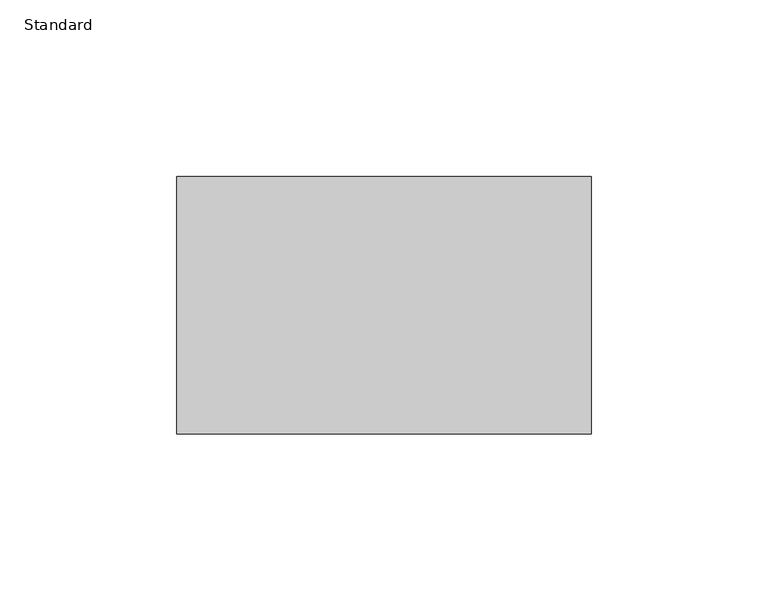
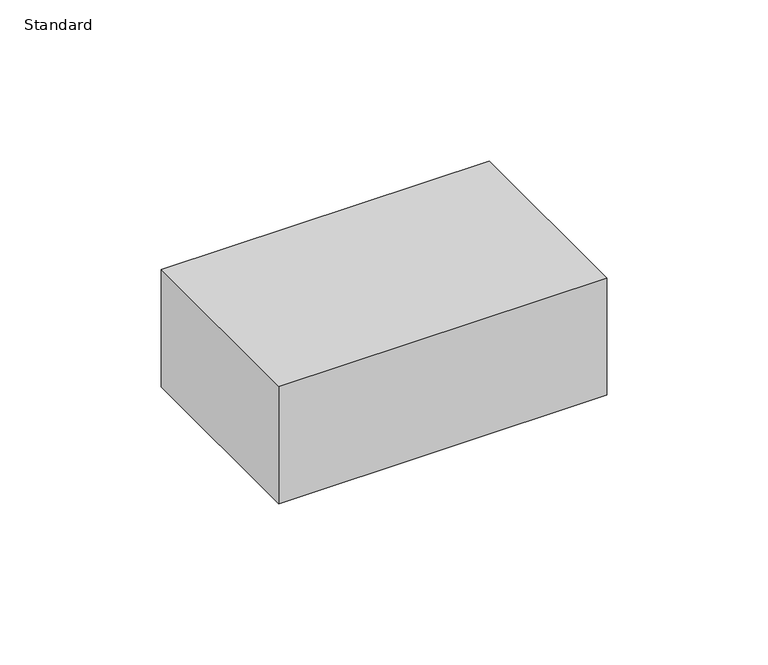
"""IFC4 building model written with IfcOpenShell, lengths in millimetres: proxy geometry, Transition_Box-2400_Series-Wiremold : Standard."""

import ifcopenshell
import ifcopenshell.guid

model = None  # the IFC model being written
_history = None  # IfcOwnerHistory: only IFC2X3 demands one
_inside = {}  # id of a spatial element -> (the spatial element, [elements in it])
_under = {}  # id of a project, library or spatial element -> (it, [spatial elements below it])
_declared = {}  # id of a project -> (the project, [libraries it declares])
_typed = {}  # id of a type object -> (the type object, [elements of that type])
_made_of = {}  # id of a material, layer set ... -> (it, [elements and type objects made of it])


def new_model(schema):
    """Start an empty IFC model of exactly this schema.

    Asked for "IFC4X3", IfcOpenShell would pick the latest addendum, in which some entities
    have other attributes; the version numbers below select the first issue.
    IFC2X3 requires an IfcOwnerHistory on every rooted entity: one is made here for all.
    """
    global model, _history
    if schema == "IFC4X3":
        model = ifcopenshell.file(schema_version=(4, 3, 0, 0))
    else:
        model = ifcopenshell.file(schema=schema)
    _inside.clear()
    _under.clear()
    _declared.clear()
    _typed.clear()
    _made_of.clear()
    _history = None
    if model.schema == "IFC2X3":
        org = make("IfcOrganization", Name="unknown")
        user = make(
            "IfcPersonAndOrganization",
            ThePerson=make("IfcPerson", FamilyName="unknown"),
            TheOrganization=org,
        )
        app = make(
            "IfcApplication",
            ApplicationDeveloper=org,
            Version="unknown",
            ApplicationFullName="unknown",
            ApplicationIdentifier="unknown",
        )
        _history = make(
            "IfcOwnerHistory",
            OwningUser=user,
            OwningApplication=app,
            ChangeAction="ADDED",
            CreationDate=0,
        )
    return model


def make(cls, **values):
    """One entity of the class cls with the attributes given. An attribute that is None is left unset."""
    return model.create_entity(
        cls, **{name: value for name, value in values.items() if value is not None}
    )


def rooted(cls, **values):
    """An entity with a GlobalId (a new one), such as an element, a storey or a relation."""
    return make(cls, GlobalId=ifcopenshell.guid.new(), OwnerHistory=_history, **values)


def si_unit(unit_type, name, prefix=None):
    """IfcSIUnit, for example si_unit("LENGTHUNIT", "METRE", prefix="MILLI")."""
    return make("IfcSIUnit", UnitType=unit_type, Prefix=prefix, Name=name)


def assignment(units):
    """IfcUnitAssignment: the units of a project."""
    return None if units is None else make("IfcUnitAssignment", Units=units)


def point(xyz):
    """IfcCartesianPoint."""
    return None if xyz is None else make("IfcCartesianPoint", Coordinates=xyz)


def direction(xyz):
    """IfcDirection."""
    return None if xyz is None else make("IfcDirection", DirectionRatios=xyz)


def frame(location, z_axis=None, x_axis=None):
    """IfcAxis2Placement3D, a coordinate frame: its origin and axes. An axis left out is left unset."""
    return make(
        "IfcAxis2Placement3D",
        Location=point(location),
        Axis=direction(z_axis),
        RefDirection=direction(x_axis),
    )


def origin():
    """The frame at (0, 0, 0) with its axes left unset."""
    return frame((0.0, 0.0, 0.0))


def origin_with_axes():
    """The frame at (0, 0, 0) with the z axis (0, 0, 1) and the x axis (1, 0, 0) written out."""
    return frame((0.0, 0.0, 0.0), z_axis=(0.0, 0.0, 1.0), x_axis=(1.0, 0.0, 0.0))


def place(relative_to, where):
    """IfcLocalPlacement: puts the frame where relative to a parent placement (None: the world)."""
    return make(
        "IfcLocalPlacement", PlacementRelTo=relative_to, RelativePlacement=where
    )


def context(
    kind, dimensions, precision=None, world=None, true_north=None, identifier=None
):
    """IfcGeometricRepresentationContext, for example the 3D "Model" context."""
    return make(
        "IfcGeometricRepresentationContext",
        ContextIdentifier=identifier,
        ContextType=kind,
        CoordinateSpaceDimension=dimensions,
        Precision=precision,
        WorldCoordinateSystem=world,
        TrueNorth=true_north,
    )


def project(units=None, contexts=None):
    """IfcProject with its units and contexts."""
    return rooted(
        "IfcProject",
        Name="project",
        RepresentationContexts=contexts,
        UnitsInContext=assignment(units),
    )


def spatial(cls, under=None, at=None, **own):
    """A site, building, storey or space (cls), placed at a placement, below another one or the project."""
    s = rooted(cls, ObjectPlacement=at, **own)
    if under is not None:
        _under.setdefault(under.id(), (under, []))[1].append(s)
    return s


def polyline(points):
    """IfcPolyline through the points."""
    return make("IfcPolyline", Points=[point(p) for p in points])


def outline(outer, holes=None, kind="AREA"):
    """IfcArbitraryClosedProfileDef: a profile drawn as a closed curve; with holes, ...WithVoids."""
    if holes is None:
        return make("IfcArbitraryClosedProfileDef", ProfileType=kind, OuterCurve=outer)
    return make(
        "IfcArbitraryProfileDefWithVoids",
        ProfileType=kind,
        OuterCurve=outer,
        InnerCurves=holes,
    )


def extrude(swept, where, along, depth):
    """IfcExtrudedAreaSolid: the profile swept, set in the frame where, extruded along a direction by depth."""
    return make(
        "IfcExtrudedAreaSolid",
        SweptArea=swept,
        Position=where,
        ExtrudedDirection=direction(along),
        Depth=depth,
    )


def shape(context_of_items, identifier, shape_type, items):
    """IfcShapeRepresentation: the items that make up one representation, for example the "Body"."""
    return make(
        "IfcShapeRepresentation",
        ContextOfItems=context_of_items,
        RepresentationIdentifier=identifier,
        RepresentationType=shape_type,
        Items=items,
    )


def source(mapping_origin, context_of_items, identifier, shape_type, items):
    """IfcRepresentationMap: a shape defined once, which mapped items show again and again."""
    return make(
        "IfcRepresentationMap",
        MappingOrigin=mapping_origin,
        MappedRepresentation=shape(context_of_items, identifier, shape_type, items),
    )


def transform(
    local_origin,
    x_axis=None,
    y_axis=None,
    z_axis=None,
    scale=None,
    scale2=None,
    scale3=None,
    uniform=True,
):
    """IfcCartesianTransformationOperator3D, or its non-uniform kind. x_axis, y_axis, z_axis: its Axis1, 2, 3."""
    if uniform:
        return make(
            "IfcCartesianTransformationOperator3D",
            Axis1=direction(x_axis),
            Axis2=direction(y_axis),
            LocalOrigin=point(local_origin),
            Scale=scale,
            Axis3=direction(z_axis),
        )
    return make(
        "IfcCartesianTransformationOperator3DnonUniform",
        Axis1=direction(x_axis),
        Axis2=direction(y_axis),
        LocalOrigin=point(local_origin),
        Scale=scale,
        Axis3=direction(z_axis),
        Scale2=scale2,
        Scale3=scale3,
    )


def mapped(mapping_source, mapping_target):
    """IfcMappedItem: shows the shape of a source again, moved by a transform."""
    return make(
        "IfcMappedItem", MappingSource=mapping_source, MappingTarget=mapping_target
    )


def made_of(thing, what):
    """Note that an element or type object is made of a material, layer set ...; save() writes the relation."""
    if what is not None:
        _made_of.setdefault(what.id(), (what, []))[1].append(thing)
    return thing


def element(
    cls,
    number,
    at=None,
    inside=None,
    cuts=None,
    type_object=None,
    material=None,
    context=None,
    identifier="Body",
    shape_type=None,
    held_by="IfcProductDefinitionShape",
    body=None,
    shapes=None,
    **own,
):
    """One element of the class cls, such as IfcWall. Its Tag is "e" and its number.

    at: its placement. inside: the storey or other place that contains it. cuts: it is an
    opening in that element (IfcRelVoidsElement). A single representation is given by context,
    identifier, shape_type and body (its items); several are given by shapes. held_by: the class
    of the entity that holds the representations. save() writes the other relations.
    """
    e = rooted(cls, Tag="e%d" % number, ObjectPlacement=at, **own)
    if body is not None:
        shapes = [shape(context, identifier, shape_type, body)]
    if shapes is not None:
        e.Representation = make(held_by, Representations=shapes)
    if inside is not None:
        _inside.setdefault(inside.id(), (inside, []))[1].append(e)
    if cuts is not None:
        rooted(
            "IfcRelVoidsElement", RelatingBuildingElement=cuts, RelatedOpeningElement=e
        )
    if type_object is not None:
        _typed.setdefault(type_object.id(), (type_object, []))[1].append(e)
    return made_of(e, material)


def aggregate(whole, parts):
    """IfcRelAggregates: a whole, such as a stair, and the parts it consists of."""
    return rooted("IfcRelAggregates", RelatingObject=whole, RelatedObjects=parts)


def save(model, path):
    """Write the relations noted so far, then the file.

    IfcRelAggregates (storeys below a building ...), IfcRelContainedInSpatialStructure (elements
    in a storey), IfcRelDefinesByType, IfcRelAssociatesMaterial and IfcRelDeclares: one each for
    every whole, place, type object, material and project.
    """
    for whole, parts in _under.values():
        aggregate(whole, parts)
    for where, things in _inside.values():
        rooted(
            "IfcRelContainedInSpatialStructure",
            RelatedElements=things,
            RelatingStructure=where,
        )
    for kind, things in _typed.values():
        rooted("IfcRelDefinesByType", RelatedObjects=things, RelatingType=kind)
    for what, things in _made_of.values():
        rooted("IfcRelAssociatesMaterial", RelatedObjects=things, RelatingMaterial=what)
    for by, libraries in _declared.values():
        rooted("IfcRelDeclares", RelatingContext=by, RelatedDefinitions=libraries)
    model.write(path)


def standard_ecfdeb52(model_context):
    return source(origin(), model_context, "Body", "SweptSolid", [
        extrude(outline(polyline([(58.7375, 36.5125), (58.7375, -36.5125), (-58.7375, -36.5125), (-58.7375, 36.5125), (58.7375, 36.5125)])), origin_with_axes(), (0.0, 0.0, 1.0), 44.45),
    ])


if __name__ == "__main__":
    model = new_model("IFC4")
    model_context = context("Model", 3, world=origin())
    ifc_project = project(units=[si_unit("LENGTHUNIT", "METRE", prefix="MILLI")], contexts=[model_context])
    site = spatial("IfcSite", under=ifc_project)
    building = spatial("IfcBuilding", under=site)
    placement = place(None, origin())
    standard_shape = standard_ecfdeb52(model_context)
    element("IfcBuildingElementProxy", 1, Name="Transition_Box-2400_Series-Wiremold : Standard", ObjectType="Transition_Box-2400_Series-Wiremold : Standard", at=placement, inside=building, context=model_context, shape_type="MappedRepresentation", body=[
        mapped(standard_shape, transform((0.0, 0.0, 0.0), x_axis=(1.0, 0.0, 0.0), y_axis=(0.0, 1.0, 0.0), z_axis=(0.0, 0.0, 1.0))),
    ])
    save(model, "model.ifc")
